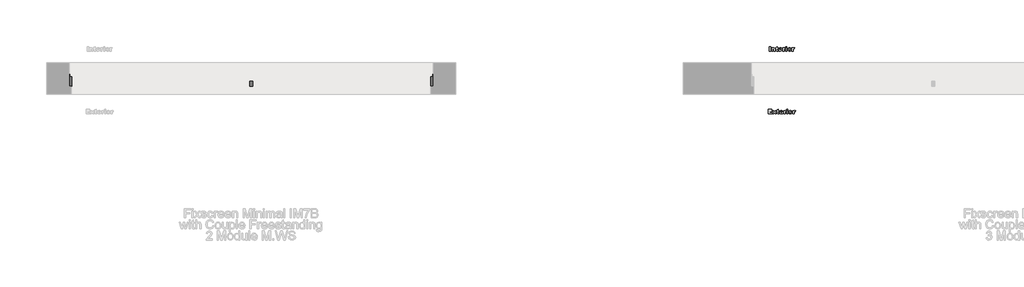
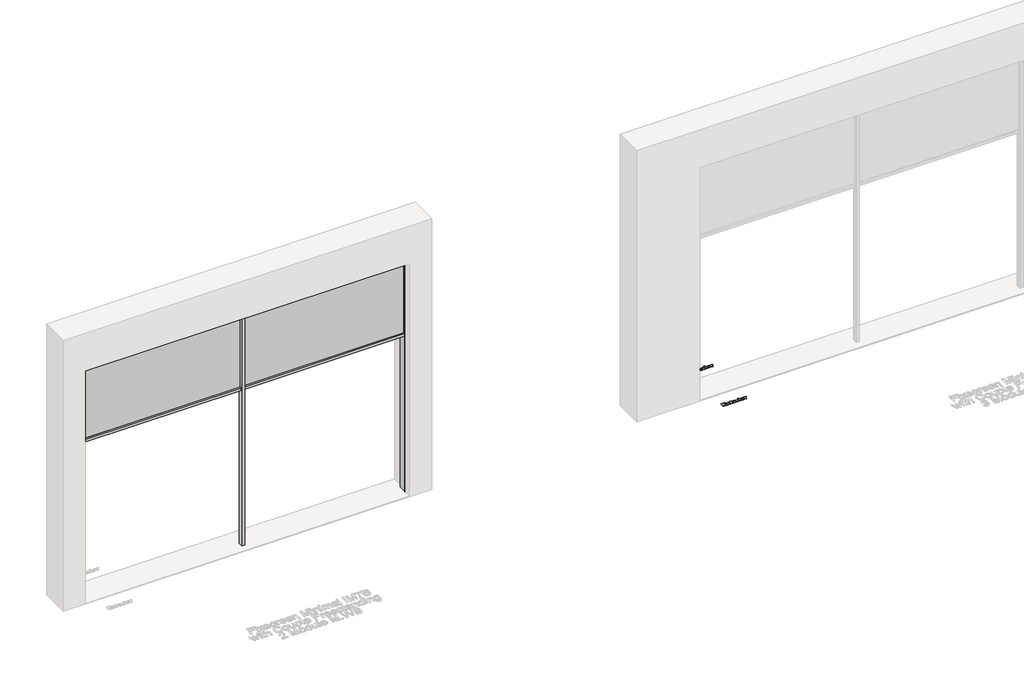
# One storey, part 3 of 14: 3 proxies.
"""IFC4 building model written with IfcOpenShell, lengths in millimetres."""

from ifc_helpers import new_model, si_unit, origin, origin_with_axes, place, context, project, spatial, polyline, outline, extrude, transform, mapped, element, save
from components import generic_models_f7b6e3af

model = new_model("IFC4")

# Units and contexts
model_context = context("Model", 3, world=origin())
ifc_project = project(units=[si_unit("LENGTHUNIT", "METRE", prefix="MILLI")], contexts=[model_context])

# Site, building, storey
site = spatial("IfcSite", under=ifc_project)
building = spatial("IfcBuilding", under=site)
storey = spatial("IfcBuildingStorey", under=building, Name="Fixscreen Mini CF Overview Top", Elevation=0.0)

# Proxies
placement = place(None, origin())
generic_models_shape = generic_models_f7b6e3af(model_context)
element("IfcBuildingElementProxy", 1, Name="Renson_Fixscreen_Minimal_IM7B_With_CF : Recessed - Front of the window - Medium-CF - Access downwards - Fabric away from the window", ObjectType="Renson_Fixscreen_Minimal_IM7B_With_CF : Recessed - Front of the window - Medium-CF - Access downwards - Fabric away from the window", at=placement, inside=storey, context=model_context, shape_type="MappedRepresentation", body=[
    mapped(generic_models_shape, transform((-6342.8595357, -992.2938309, -790.0), x_axis=(-1.0, 0.0, 0.0), y_axis=(0.0, -1.0, 0.0), z_axis=(0.0, 0.0, 1.0))),
])
element("IfcBuildingElementProxy", 2, Name="50mm Arial", ObjectType="50mm Arial", at=placement, inside=storey, context=model_context, shape_type="SweptSolid", body=[
    extrude(outline(polyline([(-1859.7717135, -1330.6720663), (-1818.4500461, -1330.6720663), (-1818.4500461, -1342.478257), (-1844.0301259, -1342.478257), (-1844.0301259, -1347.3975031), (-1820.4177446, -1347.3975031), (-1820.4177446, -1359.2036938), (-1844.0301259, -1359.2036938), (-1844.0301259, -1369.042186), (-1817.4661969, -1369.042186), (-1817.4661969, -1380.8483767), (-1859.7717135, -1380.8483767), (-1859.7717135, -1330.6720663)])), origin_with_axes(), (0.0, 0.0, 1.0), 3.0),
    extrude(outline(polyline([(-1813.5308, -1344.4459554), (-1796.8053632, -1344.4459554), (-1791.3941925, -1354.5919005), (-1783.0314741, -1344.4459554), (-1769.257585, -1344.4459554), (-1781.6786814, -1361.786298), (-1768.2737357, -1380.8483767), (-1784.0153233, -1380.8483767), (-1791.3941925, -1369.1190492), (-1800.7407601, -1380.8483767), (-1814.5146492, -1380.8483767), (-1801.1097036, -1361.786298), (-1813.5308, -1344.4459554)])), origin_with_axes(), (0.0, 0.0, 1.0), 3.0),
    extrude(outline(polyline([(-1747.6129021, -1330.6720663), (-1747.6129021, -1344.4459554), (-1739.7421083, -1344.4459554), (-1739.7421083, -1354.2844477), (-1747.6129021, -1354.2844477), (-1747.6129021, -1367.6125301), (-1747.182468, -1370.7946674), (-1744.8765714, -1371.9937337), (-1740.7259575, -1371.071375), (-1739.7421083, -1380.7100229), (-1749.1809118, -1381.8322259), (-1756.6673894, -1380.4717469), (-1760.2338429, -1376.3365056), (-1761.3867912, -1367.3358225), (-1761.3867912, -1354.2844477), (-1766.3060373, -1354.2844477), (-1766.3060373, -1344.4459554), (-1761.3867912, -1344.4459554), (-1761.3867912, -1337.8049732), (-1747.6129021, -1330.6720663)])), origin_with_axes(), (0.0, 0.0, 1.0), 3.0),
    extrude(outline(polyline([(-1693.5011948, -1365.2989472), (-1721.048973, -1366.0906383), (-1719.3272369, -1370.1028984), (-1714.3003823, -1371.9937337), (-1710.5802024, -1371.0867477), (-1708.2589331, -1369.042186), (-1694.485044, -1370.0260352), (-1701.9023448, -1379.0882089), (-1714.3772455, -1381.8322259), (-1725.4609219, -1379.7722916), (-1732.1633947, -1373.2389178), (-1734.8228622, -1362.7086566), (-1729.4654957, -1348.7887274), (-1723.08777, -1344.7937615), (-1714.6693257, -1343.4621062), (-1702.5787411, -1345.844866), (-1695.822464, -1352.7471832), (-1693.5011948, -1365.2989472)]), holes=[polyline([(-1707.2750839, -1359.2036938), (-1709.450313, -1354.6687638), (-1714.1005379, -1353.3005984), (-1719.4041001, -1355.3605327), (-1721.0182277, -1359.2036938), (-1707.2750839, -1359.2036938)])]), origin_with_axes(), (0.0, 0.0, 1.0), 3.0),
    extrude(outline(polyline([(-1687.5980994, -1344.4459554), (-1674.7619416, -1344.4459554), (-1674.7619416, -1350.3029328), (-1670.8496037, -1344.9301937), (-1665.8611807, -1343.4621062), (-1659.066472, -1345.5220405), (-1663.4169302, -1355.3144148), (-1667.3523271, -1354.2844477), (-1671.6412948, -1356.559599), (-1673.8242103, -1368.565634), (-1673.8242103, -1380.8483767), (-1687.5980994, -1380.8483767), (-1687.5980994, -1344.4459554)])), origin_with_axes(), (0.0, 0.0, 1.0), 3.0),
    extrude(outline(polyline([(-1656.1149243, -1330.6720663), (-1642.3410352, -1330.6720663), (-1642.3410352, -1340.5105585), (-1656.1149243, -1340.5105585), (-1656.1149243, -1330.6720663)])), origin_with_axes(), (0.0, 0.0, 1.0), 3.0),
    extrude(outline(polyline([(-1656.1149243, -1344.4459554), (-1642.3410352, -1344.4459554), (-1642.3410352, -1380.8483767), (-1656.1149243, -1380.8483767), (-1656.1149243, -1344.4459554)])), origin_with_axes(), (0.0, 0.0, 1.0), 3.0),
    extrude(outline(polyline([(-1634.4702414, -1362.7547746), (-1629.0513843, -1348.9040222), (-1622.6775018, -1344.8225852), (-1614.3935682, -1343.4621062), (-1605.1392364, -1345.0608612), (-1598.4675089, -1349.8571262), (-1594.1324232, -1362.5395575), (-1599.5051623, -1376.4210552), (-1605.905947, -1380.4794332), (-1614.3628229, -1381.8322259), (-1628.0598488, -1377.3434138), (-1632.8676432, -1370.9138054), (-1634.4702414, -1362.7547746)]), holes=[polyline([(-1620.6963523, -1362.6317934), (-1618.8746939, -1369.7032097), (-1614.2859597, -1371.9937337), (-1609.6972254, -1369.733955), (-1607.9063124, -1362.4934396), (-1609.712598, -1355.5757498), (-1614.1937238, -1353.3005984), (-1618.8593213, -1355.606495), (-1620.6963523, -1362.6317934)])]), origin_with_axes(), (0.0, 0.0, 1.0), 3.0),
    extrude(outline(polyline([(-1587.2454787, -1344.4459554), (-1574.4093208, -1344.4459554), (-1574.4093208, -1350.3029328), (-1570.4969829, -1344.9301937), (-1565.5085599, -1343.4621062), (-1558.7138512, -1345.5220405), (-1563.0643095, -1355.3144148), (-1566.9997064, -1354.2844477), (-1571.2886741, -1356.559599), (-1573.4715895, -1368.565634), (-1573.4715895, -1380.8483767), (-1587.2454787, -1380.8483767), (-1587.2454787, -1344.4459554)])), origin_with_axes(), (0.0, 0.0, 1.0), 3.0),
])
element("IfcBuildingElementProxy", 3, Name="50mm Arial", ObjectType="50mm Arial", at=placement, inside=storey, context=model_context, shape_type="SweptSolid", body=[
    extrude(outline(polyline([(-1847.4735982, -640.379715), (-1831.7320107, -640.379715), (-1831.7320107, -690.5560254), (-1847.4735982, -690.5560254), (-1847.4735982, -640.379715)])), origin_with_axes(), (0.0, 0.0, 1.0), 3.0),
    extrude(outline(polyline([(-1821.8935184, -654.1536041), (-1809.0727332, -654.1536041), (-1809.0727332, -659.9183456), (-1803.1619516, -654.7300783), (-1795.8830046, -653.1697549), (-1786.8054582, -656.6285998), (-1783.5233987, -667.3125875), (-1783.5233987, -690.5560254), (-1797.2972878, -690.5560254), (-1797.2972878, -670.3256257), (-1798.6039626, -665.4294386), (-1802.2626519, -663.9920963), (-1806.4978153, -665.9290495), (-1808.1196293, -672.8928573), (-1808.1196293, -690.5560254), (-1821.8935184, -690.5560254), (-1821.8935184, -654.1536041)])), origin_with_axes(), (0.0, 0.0, 1.0), 3.0),
    extrude(outline(polyline([(-1758.9271681, -640.379715), (-1758.9271681, -654.1536041), (-1751.0563743, -654.1536041), (-1751.0563743, -663.9920963), (-1758.9271681, -663.9920963), (-1758.9271681, -677.3201788), (-1758.4967341, -680.5023161), (-1756.1908375, -681.7013824), (-1752.0402236, -680.7790237), (-1751.0563743, -690.4176716), (-1760.4951778, -691.5398746), (-1767.9816555, -690.1793956), (-1771.5481089, -686.0441543), (-1772.7010573, -677.0434712), (-1772.7010573, -663.9920963), (-1777.6203034, -663.9920963), (-1777.6203034, -654.1536041), (-1772.7010573, -654.1536041), (-1772.7010573, -647.5126218), (-1758.9271681, -640.379715)])), origin_with_axes(), (0.0, 0.0, 1.0), 3.0),
    extrude(outline(polyline([(-1704.8154608, -675.0065958), (-1732.3632391, -675.798287), (-1730.641503, -679.8105471), (-1725.6146483, -681.7013824), (-1721.8944685, -680.7943964), (-1719.5731992, -678.7498347), (-1705.7993101, -679.7336839), (-1713.2166109, -688.7958576), (-1725.6915116, -691.5398746), (-1736.775188, -689.4799403), (-1743.4776608, -682.9465665), (-1746.1371282, -672.4163053), (-1740.7797618, -658.4963761), (-1734.402036, -654.5014102), (-1725.9835918, -653.1697549), (-1713.8930072, -655.5525147), (-1707.1367301, -662.4548319), (-1704.8154608, -675.0065958)]), holes=[polyline([(-1718.58935, -668.9113425), (-1720.7645791, -664.3764124), (-1725.414804, -663.0082471), (-1730.7183662, -665.0681814), (-1732.3324938, -668.9113425), (-1718.58935, -668.9113425)])]), origin_with_axes(), (0.0, 0.0, 1.0), 3.0),
    extrude(outline(polyline([(-1698.9123655, -654.1536041), (-1686.0762077, -654.1536041), (-1686.0762077, -660.0105815), (-1682.1638697, -654.6378424), (-1677.1754467, -653.1697549), (-1670.380738, -655.2296892), (-1674.7311963, -665.0220635), (-1678.6665932, -663.9920963), (-1682.9555609, -666.2672477), (-1685.1384764, -678.2732827), (-1685.1384764, -690.5560254), (-1698.9123655, -690.5560254), (-1698.9123655, -654.1536041)])), origin_with_axes(), (0.0, 0.0, 1.0), 3.0),
    extrude(outline(polyline([(-1667.4291904, -640.379715), (-1653.6553012, -640.379715), (-1653.6553012, -650.2182072), (-1667.4291904, -650.2182072), (-1667.4291904, -640.379715)])), origin_with_axes(), (0.0, 0.0, 1.0), 3.0),
    extrude(outline(polyline([(-1667.4291904, -654.1536041), (-1653.6553012, -654.1536041), (-1653.6553012, -690.5560254), (-1667.4291904, -690.5560254), (-1667.4291904, -654.1536041)])), origin_with_axes(), (0.0, 0.0, 1.0), 3.0),
    extrude(outline(polyline([(-1645.7845074, -672.4624232), (-1640.3656504, -658.6116709), (-1633.9917678, -654.5302339), (-1625.7078342, -653.1697549), (-1616.4535025, -654.7685099), (-1609.7817749, -659.5647748), (-1605.4466893, -672.2472062), (-1610.8194284, -686.1287039), (-1617.2202131, -690.1870819), (-1625.6770889, -691.5398746), (-1639.3741149, -687.0510625), (-1644.1819093, -680.6214541), (-1645.7845074, -672.4624232)]), holes=[polyline([(-1632.0106183, -672.3394421), (-1630.18896, -679.4108584), (-1625.6002257, -681.7013824), (-1621.0114915, -679.4416037), (-1619.2205784, -672.2010883), (-1621.0268641, -665.2833984), (-1625.5079899, -663.0082471), (-1630.1735874, -665.3141437), (-1632.0106183, -672.3394421)])]), origin_with_axes(), (0.0, 0.0, 1.0), 3.0),
    extrude(outline(polyline([(-1598.5597447, -654.1536041), (-1585.7235869, -654.1536041), (-1585.7235869, -660.0105815), (-1581.811249, -654.6378424), (-1576.822826, -653.1697549), (-1570.0281173, -655.2296892), (-1574.3785755, -665.0220635), (-1578.3139724, -663.9920963), (-1582.6029401, -666.2672477), (-1584.7858556, -678.2732827), (-1584.7858556, -690.5560254), (-1598.5597447, -690.5560254), (-1598.5597447, -654.1536041)])), origin_with_axes(), (0.0, 0.0, 1.0), 3.0),
])

save(model, "model.ifc")
